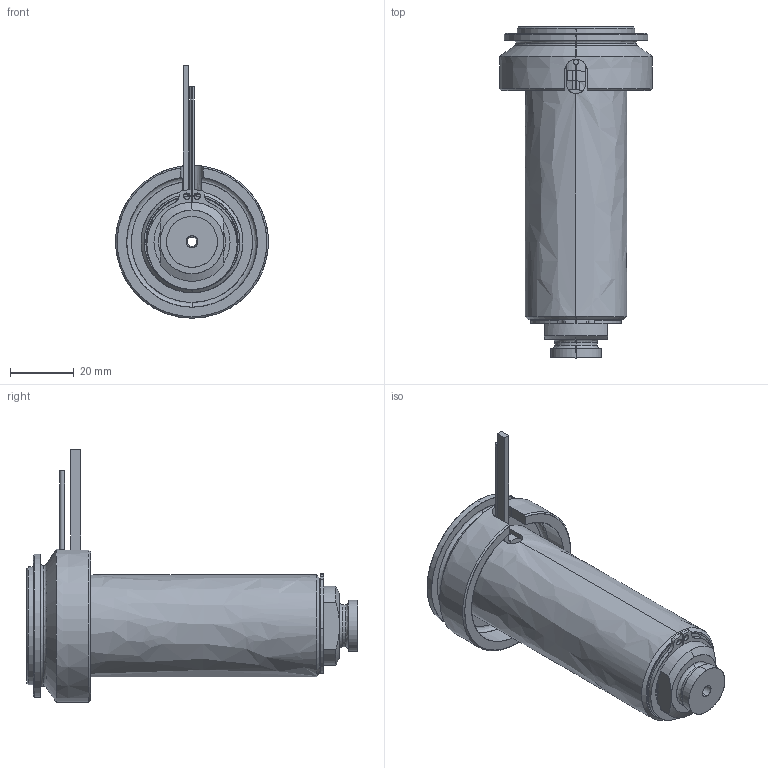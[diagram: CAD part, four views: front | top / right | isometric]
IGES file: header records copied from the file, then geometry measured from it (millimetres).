
Start section: SolidWorks IGES file using analytic representation for surfaces
Global section: file name: C:\Documents and Settings\ws-20\Desktop\TEMPORANEA\UGBE5002-M-A-3 [Ød-3.0 P-0 ØC-13].IGS; native system: SolidWorks 2012; preprocessor: SolidWorks 2012; author: ws-20; date: 120306.161638; units: millimetre
Bounding box: 48 x 104.25 x 79.3 mm (x, y, z)
Surface area: 39510.3 mm2 (no closed solid volume)
Topology: 0 solids, 0 shells, 111 faces, 2054 edges, 2054 vertices
Faces by surface type: revolution 64, bspline 47
